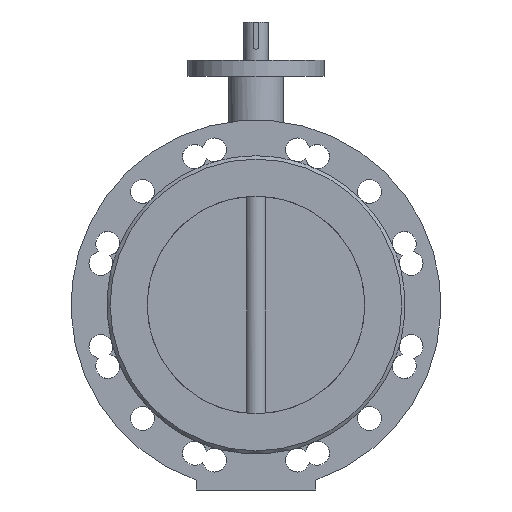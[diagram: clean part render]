
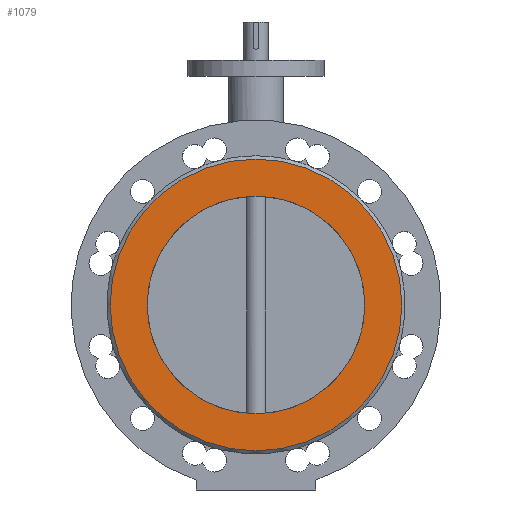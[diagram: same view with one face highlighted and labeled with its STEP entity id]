
A CAD part, front view. The second image highlights one B-rep face of the part: STEP entity #1079.
In plain terms, the highlighted planar face has unit normal (0, -1, 0).
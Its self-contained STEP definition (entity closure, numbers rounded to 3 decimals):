
#1079=ADVANCED_FACE('',(#2149,#2151),#2153,.T.);
#2149=FACE_BOUND('',#2150,.T.);
#2150=EDGE_LOOP('',(#3004));
#2151=FACE_BOUND('',#2152,.T.);
#2152=EDGE_LOOP('',(#3005));
#2153=PLANE('',#2154);
#2154=AXIS2_PLACEMENT_3D('',#2155,#2156,#2157);
#2155=CARTESIAN_POINT('',(0.,-76.,0.));
#2156=DIRECTION('',(0.,-1.,0.));
#2157=DIRECTION('',(0.,0.,1.));
#3004=ORIENTED_EDGE('',*,*,#3404,.F.);
#3005=ORIENTED_EDGE('',*,*,#3428,.T.);
#3404=EDGE_CURVE('',#4033,#4033,#4034,.T.);
#3428=EDGE_CURVE('',#4061,#4061,#4062,.T.);
#4033=VERTEX_POINT('',#7150);
#4034=CIRCLE('',#7151,134.);
#4061=VERTEX_POINT('',#7250);
#4062=CIRCLE('',#7251,100.);
#7150=CARTESIAN_POINT('',(0.,-76.,134.));
#7151=AXIS2_PLACEMENT_3D('',#7152,#7153,#7154);
#7152=CARTESIAN_POINT('',(0.,-76.,0.));
#7153=DIRECTION('',(0.,1.,0.));
#7154=DIRECTION('',(0.,0.,1.));
#7250=CARTESIAN_POINT('',(0.,-76.,100.));
#7251=AXIS2_PLACEMENT_3D('',#7252,#7253,#7254);
#7252=CARTESIAN_POINT('',(0.,-76.,0.));
#7253=DIRECTION('',(0.,1.,0.));
#7254=DIRECTION('',(0.,0.,1.));
